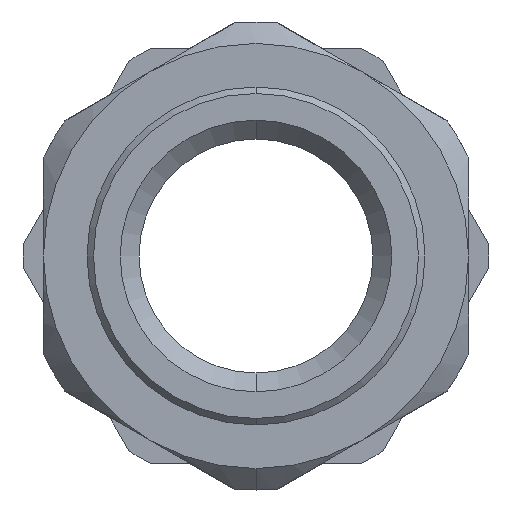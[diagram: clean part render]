
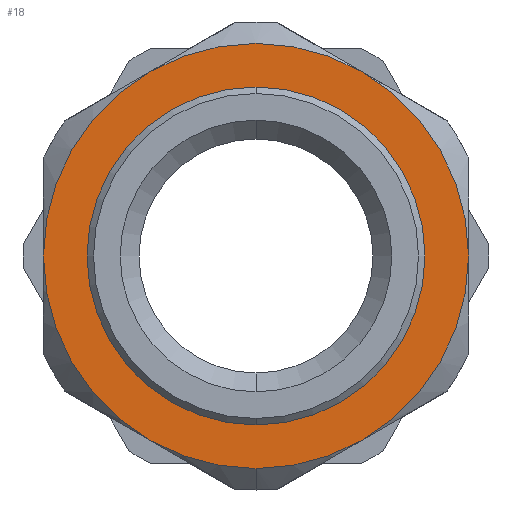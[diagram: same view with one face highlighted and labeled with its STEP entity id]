
A CAD part, front view. The second image highlights one B-rep face of the part: STEP entity #18.
In plain terms, the highlighted planar face has unit normal (0, -1, 0).
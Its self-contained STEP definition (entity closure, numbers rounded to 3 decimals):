
#1 = EDGE_LOOP ( 'NONE', ( #1761, #1763, #1762, #1764, #1765, #1766, #1767 ) ) ;
#18 = ADVANCED_FACE ( 'NONE', ( #551, #548 ), #1436, .F. ) ;
#41 = CIRCLE ( 'NONE', #399, 16.35 ) ;
#48 = CIRCLE ( 'NONE', #1674, 16.35 ) ;
#50 = CIRCLE ( 'NONE', #1676, 16.35 ) ;
#51 = CIRCLE ( 'NONE', #1701, 16.35 ) ;
#52 = CIRCLE ( 'NONE', #1658, 13. ) ;
#53 = CIRCLE ( 'NONE', #1695, 16.35 ) ;
#54 = CIRCLE ( 'NONE', #1690, 16.35 ) ;
#55 = CIRCLE ( 'NONE', #1678, 16.35 ) ;
#294 = EDGE_CURVE ( 'NONE', #1150, #1316, #55, .T. ) ;
#297 = EDGE_CURVE ( 'NONE', #1312, #1104, #54, .T. ) ;
#300 = EDGE_CURVE ( 'NONE', #1313, #1312, #50, .T. ) ;
#301 = EDGE_CURVE ( 'NONE', #1314, #1313, #53, .T. ) ;
#302 = EDGE_CURVE ( 'NONE', #1316, #1315, #51, .T. ) ;
#303 = EDGE_CURVE ( 'NONE', #1121, #1122, #52, .T. ) ;
#305 = EDGE_CURVE ( 'NONE', #1315, #1314, #48, .T. ) ;
#322 = CIRCLE ( 'NONE', #1640, 13. ) ;
#359 = EDGE_CURVE ( 'NONE', #1122, #1121, #322, .T. ) ;
#389 = EDGE_CURVE ( 'NONE', #1104, #1150, #41, .T. ) ;
#399 = AXIS2_PLACEMENT_3D ( 'NONE', #784, #785, #786 ) ;
#545 = AXIS2_PLACEMENT_3D ( 'NONE', #1437, #1438, #1439 ) ;
#548 = FACE_OUTER_BOUND ( 'NONE', #1, .T. ) ;
#551 = FACE_BOUND ( 'NONE', #1876, .T. ) ;
#696 = CARTESIAN_POINT ( 'NONE',  ( 0., 1., 0. ) ) ;
#697 = DIRECTION ( 'NONE',  ( 0., -1., 0. ) ) ;
#698 = DIRECTION ( 'NONE',  ( 0., 0., -1. ) ) ;
#784 = CARTESIAN_POINT ( 'NONE',  ( 0., 1., 0. ) ) ;
#785 = DIRECTION ( 'NONE',  ( 0., -1., 0. ) ) ;
#786 = DIRECTION ( 'NONE',  ( 0., 0., -1. ) ) ;
#793 = CARTESIAN_POINT ( 'NONE',  ( 0., 1., -16.35 ) ) ;
#810 = CARTESIAN_POINT ( 'NONE',  ( 0., 1., 13. ) ) ;
#811 = CARTESIAN_POINT ( 'NONE',  ( 0., 1., -13. ) ) ;
#839 = CARTESIAN_POINT ( 'NONE',  ( 8.175, 1., -14.16 ) ) ;
#899 = CARTESIAN_POINT ( 'NONE',  ( -8.175, 1., -14.16 ) ) ;
#900 = CARTESIAN_POINT ( 'NONE',  ( -16.35, 1., 0. ) ) ;
#901 = CARTESIAN_POINT ( 'NONE',  ( -8.175, 1., 14.16 ) ) ;
#902 = CARTESIAN_POINT ( 'NONE',  ( 8.175, 1., 14.16 ) ) ;
#903 = CARTESIAN_POINT ( 'NONE',  ( 16.35, 1., 0. ) ) ;
#1104 = VERTEX_POINT ( 'NONE', #793 ) ;
#1121 = VERTEX_POINT ( 'NONE', #810 ) ;
#1122 = VERTEX_POINT ( 'NONE', #811 ) ;
#1150 = VERTEX_POINT ( 'NONE', #839 ) ;
#1312 = VERTEX_POINT ( 'NONE', #899 ) ;
#1313 = VERTEX_POINT ( 'NONE', #900 ) ;
#1314 = VERTEX_POINT ( 'NONE', #901 ) ;
#1315 = VERTEX_POINT ( 'NONE', #902 ) ;
#1316 = VERTEX_POINT ( 'NONE', #903 ) ;
#1436 = PLANE ( 'NONE',  #545 ) ;
#1437 = CARTESIAN_POINT ( 'NONE',  ( -18., 1., 0. ) ) ;
#1438 = DIRECTION ( 'NONE',  ( 0., 1., 0. ) ) ;
#1439 = DIRECTION ( 'NONE',  ( 0., 0., 1. ) ) ;
#1640 = AXIS2_PLACEMENT_3D ( 'NONE', #696, #697, #698 ) ;
#1658 = AXIS2_PLACEMENT_3D ( 'NONE', #2410, #2411, #2412 ) ;
#1674 = AXIS2_PLACEMENT_3D ( 'NONE', #2416, #2417, #2418 ) ;
#1676 = AXIS2_PLACEMENT_3D ( 'NONE', #2401, #2402, #2403 ) ;
#1678 = AXIS2_PLACEMENT_3D ( 'NONE', #2388, #2389, #2390 ) ;
#1690 = AXIS2_PLACEMENT_3D ( 'NONE', #2391, #2392, #2393 ) ;
#1695 = AXIS2_PLACEMENT_3D ( 'NONE', #2404, #2405, #2406 ) ;
#1701 = AXIS2_PLACEMENT_3D ( 'NONE', #2407, #2408, #2409 ) ;
#1759 = ORIENTED_EDGE ( 'NONE', *, *, #359, .F. ) ;
#1760 = ORIENTED_EDGE ( 'NONE', *, *, #303, .F. ) ;
#1761 = ORIENTED_EDGE ( 'NONE', *, *, #302, .T. ) ;
#1762 = ORIENTED_EDGE ( 'NONE', *, *, #301, .T. ) ;
#1763 = ORIENTED_EDGE ( 'NONE', *, *, #305, .T. ) ;
#1764 = ORIENTED_EDGE ( 'NONE', *, *, #300, .T. ) ;
#1765 = ORIENTED_EDGE ( 'NONE', *, *, #297, .T. ) ;
#1766 = ORIENTED_EDGE ( 'NONE', *, *, #389, .T. ) ;
#1767 = ORIENTED_EDGE ( 'NONE', *, *, #294, .T. ) ;
#1876 = EDGE_LOOP ( 'NONE', ( #1759, #1760 ) ) ;
#2388 = CARTESIAN_POINT ( 'NONE',  ( 0., 1., 0. ) ) ;
#2389 = DIRECTION ( 'NONE',  ( 0., -1., 0. ) ) ;
#2390 = DIRECTION ( 'NONE',  ( 0., 0., -1. ) ) ;
#2391 = CARTESIAN_POINT ( 'NONE',  ( 0., 1., 0. ) ) ;
#2392 = DIRECTION ( 'NONE',  ( 0., -1., 0. ) ) ;
#2393 = DIRECTION ( 'NONE',  ( 0., 0., -1. ) ) ;
#2401 = CARTESIAN_POINT ( 'NONE',  ( 0., 1., 0. ) ) ;
#2402 = DIRECTION ( 'NONE',  ( 0., -1., 0. ) ) ;
#2403 = DIRECTION ( 'NONE',  ( 0., 0., -1. ) ) ;
#2404 = CARTESIAN_POINT ( 'NONE',  ( 0., 1., 0. ) ) ;
#2405 = DIRECTION ( 'NONE',  ( 0., -1., 0. ) ) ;
#2406 = DIRECTION ( 'NONE',  ( 0., 0., -1. ) ) ;
#2407 = CARTESIAN_POINT ( 'NONE',  ( 0., 1., 0. ) ) ;
#2408 = DIRECTION ( 'NONE',  ( 0., -1., 0. ) ) ;
#2409 = DIRECTION ( 'NONE',  ( 0., 0., -1. ) ) ;
#2410 = CARTESIAN_POINT ( 'NONE',  ( 0., 1., 0. ) ) ;
#2411 = DIRECTION ( 'NONE',  ( 0., -1., 0. ) ) ;
#2412 = DIRECTION ( 'NONE',  ( 0., 0., -1. ) ) ;
#2416 = CARTESIAN_POINT ( 'NONE',  ( 0., 1., 0. ) ) ;
#2417 = DIRECTION ( 'NONE',  ( 0., -1., 0. ) ) ;
#2418 = DIRECTION ( 'NONE',  ( 0., 0., -1. ) ) ;
